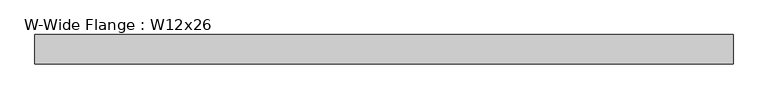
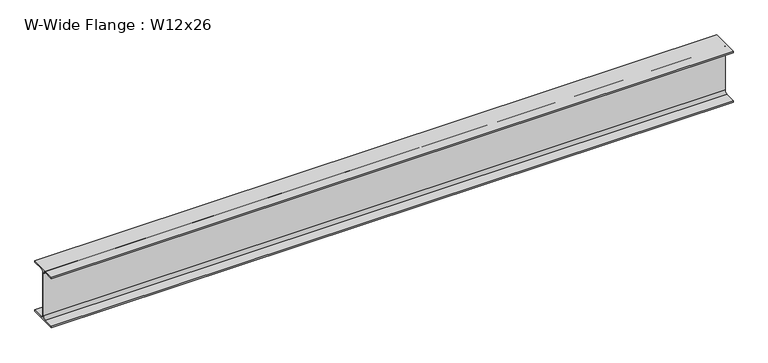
"""IFC4 building model written with IfcOpenShell, lengths in millimetres: beam geometry, W-Wide Flange : W12x26."""

from ifc_helpers import new_model, si_unit, point, frame, frame_2d, origin, place, context, project, spatial, polyline, circle_curve, trimmed, segment, composite_curve, outline, extrude, source, transform, mapped, element, save


def w_wide_flange_w12x26_ec9bced6(model_context):
    return source(origin(), model_context, "Body", "SweptSolid", [
        extrude(outline(composite_curve([segment(polyline([(82.423, -145.288), (82.423, -154.94), (-82.423, -154.94), (-82.423, -145.288), (-20.2565, -145.288)]), True, "CONTINUOUS"), segment(trimmed(circle_curve(frame_2d((-20.2565, -127.9525)), 17.3355), [point((-20.2565, -145.288))], [point((-2.921, -127.9525))], True, "CARTESIAN"), True, "CONTINUOUS"), segment(polyline([(-2.921, -127.9525), (-2.921, 127.9525)]), True, "CONTINUOUS"), segment(trimmed(circle_curve(frame_2d((-20.2565, 127.9525)), 17.3355), [point((-2.921, 127.9525))], [point((-20.2565, 145.288))], True, "CARTESIAN"), True, "CONTINUOUS"), segment(polyline([(-20.2565, 145.288), (-82.423, 145.288), (-82.423, 154.94), (82.423, 154.94), (82.423, 145.288), (20.2565, 145.288)]), True, "CONTINUOUS"), segment(trimmed(circle_curve(frame_2d((20.2565, 127.9525)), 17.3355), [point((20.2565, 145.288))], [point((2.921, 127.9525))], True, "CARTESIAN"), True, "CONTINUOUS"), segment(polyline([(2.921, 127.9525), (2.921, -127.9525)]), True, "CONTINUOUS"), segment(trimmed(circle_curve(frame_2d((20.2565, -127.9525)), 17.3355), [point((2.921, -127.9525))], [point((20.2565, -145.288))], True, "CARTESIAN"), True, "CONTINUOUS"), segment(polyline([(20.2565, -145.288), (82.423, -145.288)]), True, "CONTINUOUS")], self_intersect=False)), frame((-1917.6280253, 0.0, 0.0), z_axis=(1.0, 0.0, 0.0), x_axis=(0.0, 1.0, 0.0)), (0.0, 0.0, 1.0), 3930.5138115),
    ])


if __name__ == "__main__":
    model = new_model("IFC4")
    model_context = context("Model", 3, world=origin())
    ifc_project = project(units=[si_unit("LENGTHUNIT", "METRE", prefix="MILLI")], contexts=[model_context])
    site = spatial("IfcSite", under=ifc_project)
    building = spatial("IfcBuilding", under=site)
    placement = place(None, origin())
    w_wide_flange_w12x26_shape = w_wide_flange_w12x26_ec9bced6(model_context)
    element("IfcBeam", 1, ObjectType="W-Wide Flange : W12x26", at=placement, inside=building, context=model_context, shape_type="MappedRepresentation", body=[
        mapped(w_wide_flange_w12x26_shape, transform((0.0, 0.0, 0.0), x_axis=(1.0, 0.0, 0.0), y_axis=(0.0, 1.0, 0.0), z_axis=(0.0, 0.0, 1.0))),
    ])
    save(model, "model.ifc")
